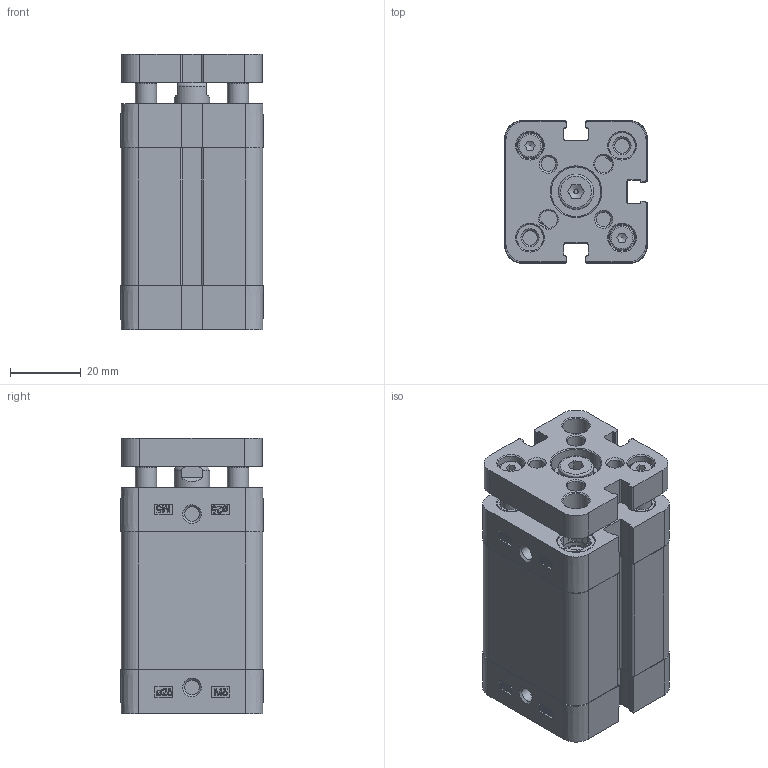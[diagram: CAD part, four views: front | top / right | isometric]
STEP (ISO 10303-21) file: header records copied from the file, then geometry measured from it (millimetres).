
FILE_DESCRIPTION(/* description */ ('Unknown'),/* implementation_level */ '2;1');
FILE_NAME(/* name */ 'ZINT 25_25',/* time_stamp */ '2025-01-27T12:09:49+01:00',/* author */ ('Unknown'),/* organization */ ('HAFNER Pneumatika Kft'),/* preprocessor_version */ 'ST-DEVELOPER v16.7',/* originating_system */ 'Solid Edge',/* authorisation */ 'Unknown');
FILE_SCHEMA (('AUTOMOTIVE_DESIGN {1 0 10303 214 3 1 1}'));
Length unit declared in the file: millimetre
Products named in the file (7): ZINT 25_25; Kit_1; Platte; Profilrohr; Kolbenstange; Kit_2; Führungsstange
Assembly tree (7 placements, depth 2):
  ZINT 25_25
    Kit_1
    Platte
    Profilrohr
    Kolbenstange
    Kit_2
    Führungsstange  x2
Bounding box: 40.3 x 40.3 x 78 mm (x, y, z)
Volume: 92736.3 mm3; surface area: 39698 mm2
Topology: 7 solids, 14 shells, 730 faces, 1930 edges, 1274 vertices
Faces by surface type: plane 364, cylinder 185, bspline 84, cone 79, torus 18
Full cylindrical faces by diameter (mm): 3.242 x2, 4 x2, 4.134 x14, 4.917 x1, 5 x2, 6 x2, 7 x2, 7.5 x6, 8 x10, 9 x1, 10 x2, 10.48 x1, 10.9 x4, 11.1 x4, 11.4 x1, 12 x1, 14 x2, 25 x2
Entity records: 26461 total; most frequent: CARTESIAN_POINT 4889, ORIENTED_EDGE 3460, DIRECTION 3288, EDGE_CURVE 1730, VERTEX_POINT 1215, AXIS2_PLACEMENT_3D 1122, LINE 1044, VECTOR 1044
